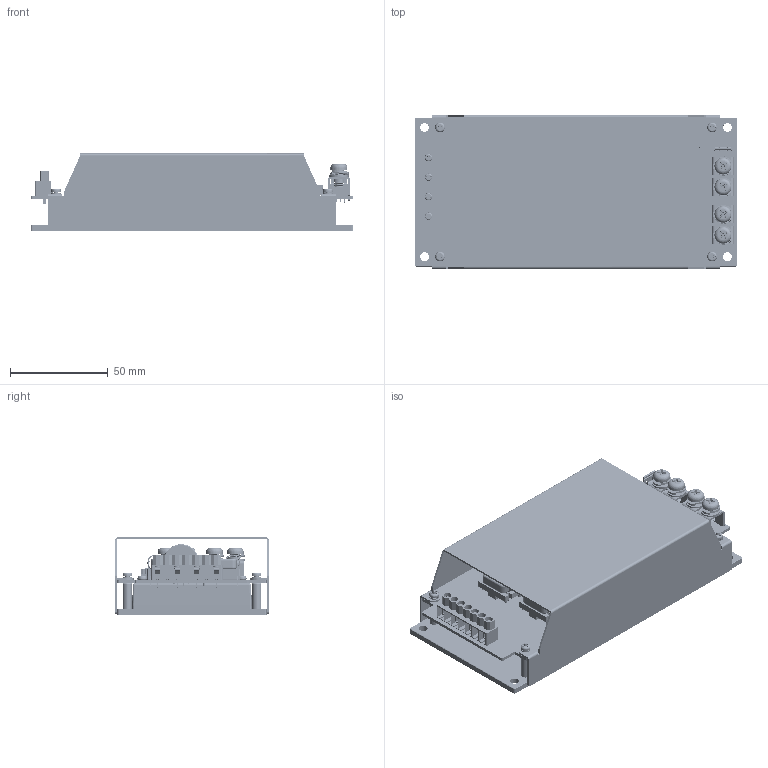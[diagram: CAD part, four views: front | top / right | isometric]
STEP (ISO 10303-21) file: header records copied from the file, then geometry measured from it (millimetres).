
FILE_DESCRIPTION (( 'STEP AP203' ), '1' );
FILE_NAME ('CHB300-300S CMFD 5V 2024.04.17.STEP', '2024-04-26T09:12:31', ( '' ), ( '' ), 'SwSTEP 2.0', 'SolidWorks 2020', '' );
FILE_SCHEMA (( 'CONFIG_CONTROL_DESIGN' ));
Products named in the file (1): CHB300-300S CMFD 5V 2024.04.17
Bounding box: 165 x 78.56 x 39.5 mm (x, y, z)
Volume: 138685.9 mm3; surface area: 130767.4 mm2
Topology: 9 solids, 35 shells, 2653 faces, 9378 edges, 6140 vertices
Faces by surface type: plane 1624, cylinder 644, bspline 168, cone 99, torus 79, sphere 39
Full cylindrical faces by diameter (mm): 0.7 x16, 0.78 x2, 0.8 x4, 1 x13, 1.2 x5, 1.5 x2, 2 x5, 2.2 x8, 2.9 x8, 3 x7, 3.2 x10, 3.239 x3, 3.25 x1, 3.264 x1, 3.8 x4, 3.9 x7, 4 x5, 4.2 x4, 4.3 x4, 4.45 x4, 4.5 x4, 4.6 x4, 4.7 x8, 5 x12, 5.3 x4, 5.5 x4, 10 x4, 12 x1, 12.8 x1, 13 x1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
Entity records: 201950 total; most frequent: CARTESIAN_POINT 128714, ORIENTED_EDGE 17774, DIRECTION 12145, EDGE_CURVE 8887, VERTEX_POINT 5973, LINE 4321, VECTOR 4321, AXIS2_PLACEMENT_3D 3912
